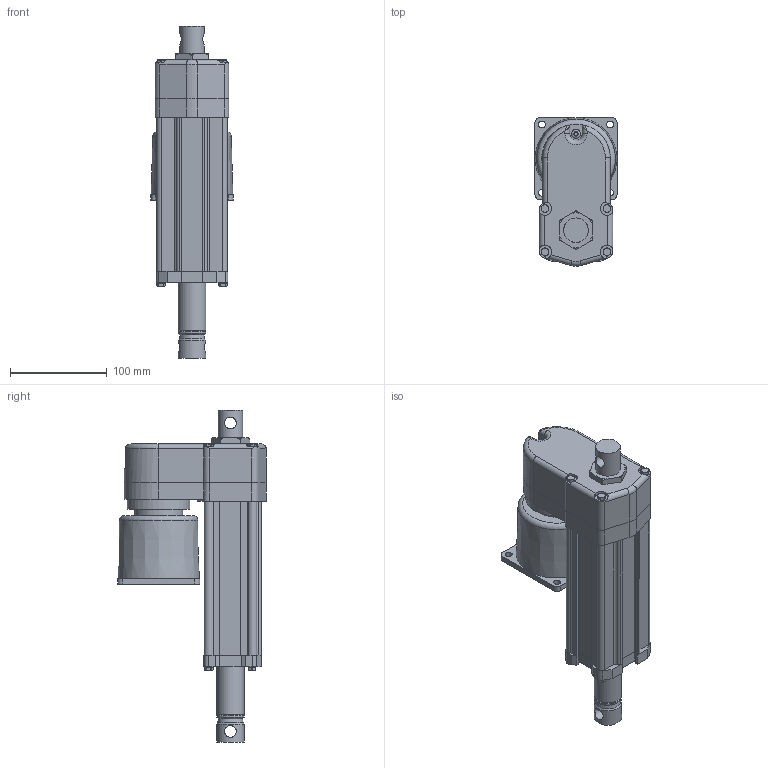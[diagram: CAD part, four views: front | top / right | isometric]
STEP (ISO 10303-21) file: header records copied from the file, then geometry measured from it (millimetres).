
FILE_DESCRIPTION (( 'STEP AP214' ), '1' );
FILE_NAME ('FA14-05B65M05M0_tollo.step', '2020-04-15T18:24:28', ( '' ), ( '' ), 'SwSTEP 2.0', 'SolidWorks 2010', '' );
FILE_SCHEMA (( 'AUTOMOTIVE_DESIGN' ));
Length unit declared in the file: millimetre
Products named in the file (9): Electrak-FA14-House-Ball-Tollo; Electrak-FA14-Rear-Tollo; Electrak-FA14-Motor-Tollo; Electrak-FA14-Tube-Ball-Tollo; Electrak-FA14-Plate-Tollo; Screw-MRT-TT-M5; Screw-M6S-M5; Electrak-FA14-Rod-Ball-Tollo; FA14-05B65M05M0_tollo
Assembly tree (15 placements, depth 3):
  FA14-05B65M05M0_tollo
    Electrak-FA14-Rod-Ball-Tollo
    Electrak-FA14-House-Ball-Tollo
      Screw-M6S-M5  x8
      Electrak-FA14-Plate-Tollo
      Screw-MRT-TT-M5
      Electrak-FA14-Rear-Tollo
      Electrak-FA14-Tube-Ball-Tollo
      Electrak-FA14-Motor-Tollo
Bounding box: 85 x 154.18 x 344 mm (x, y, z)
Volume: 1038307.3 mm3; surface area: 250669.6 mm2
Topology: 14 solids, 14 shells, 509 faces, 1279 edges, 826 vertices
Faces by surface type: plane 234, cylinder 198, cone 57, torus 18, bspline 2
Full cylindrical faces by diameter (mm): 4.126 x8, 4.8 x6, 5 x8, 5.6 x4, 6 x1, 7 x4, 7.878 x8, 9.5 x1, 11.741 x1, 12.2 x2, 25.4 x1, 28.5 x4, 34.5 x1, 47.625 x1, 50 x1, 65 x1, 80 x1
Entity records: 11671 total; most frequent: CARTESIAN_POINT 2704, DIRECTION 1857, ORIENTED_EDGE 1700, EDGE_CURVE 850, AXIS2_PLACEMENT_3D 686, VERTEX_POINT 577, LINE 485, VECTOR 485
